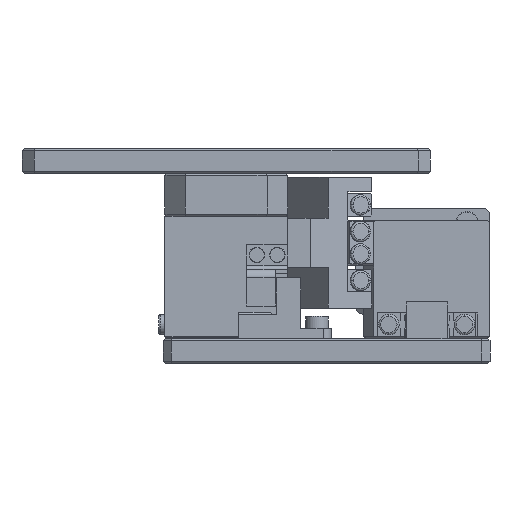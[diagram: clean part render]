
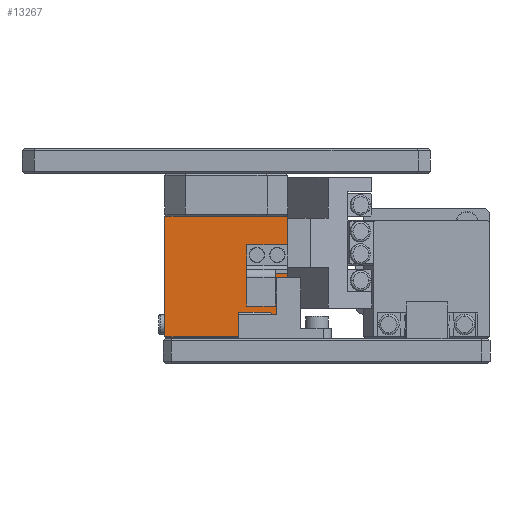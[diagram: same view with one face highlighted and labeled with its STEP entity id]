
A CAD part, front view. The second image highlights one B-rep face of the part: STEP entity #13267.
In plain terms, the highlighted planar face has unit normal (0, -1, 0).
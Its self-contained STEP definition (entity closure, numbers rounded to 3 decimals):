
#1931 = CARTESIAN_POINT ( 'NONE',  ( -1.346, -62.378, 142.5 ) ) ;
#2614 = VECTOR ( 'NONE', #15178, 1000. ) ;
#2859 = LINE ( 'NONE', #18258, #12176 ) ;
#4700 = LINE ( 'NONE', #31976, #7120 ) ;
#5528 = DIRECTION ( 'NONE',  ( 0., 1., 0. ) ) ;
#5627 = CARTESIAN_POINT ( 'NONE',  ( -11.346, -62.378, 126. ) ) ;
#5969 = EDGE_CURVE ( 'NONE', #33567, #43434, #46562, .T. ) ;
#6037 = DIRECTION ( 'NONE',  ( -1., 0., 0. ) ) ;
#6258 = ORIENTED_EDGE ( 'NONE', *, *, #28422, .F. ) ;
#7120 = VECTOR ( 'NONE', #7761, 1000. ) ;
#7761 = DIRECTION ( 'NONE',  ( 0., 0., 1. ) ) ;
#8535 = DIRECTION ( 'NONE',  ( -1., 0., 0. ) ) ;
#8633 = CARTESIAN_POINT ( 'NONE',  ( -1.346, -62.378, 121. ) ) ;
#8892 = EDGE_CURVE ( 'NONE', #41170, #10140, #44478, .T. ) ;
#8932 = VECTOR ( 'NONE', #17335, 1000. ) ;
#9856 = ORIENTED_EDGE ( 'NONE', *, *, #47057, .F. ) ;
#9857 = CARTESIAN_POINT ( 'NONE',  ( -31.346, -62.378, 103.5 ) ) ;
#10140 = VERTEX_POINT ( 'NONE', #21463 ) ;
#11921 = DIRECTION ( 'NONE',  ( -1., 0., 0. ) ) ;
#12176 = VECTOR ( 'NONE', #22811, 1000. ) ;
#12574 = ORIENTED_EDGE ( 'NONE', *, *, #5969, .T. ) ;
#13267 = ADVANCED_FACE ( 'NONE', ( #37345 ), #29275, .F. ) ;
#14588 = CARTESIAN_POINT ( 'NONE',  ( -31.346, -62.378, 133. ) ) ;
#15066 = EDGE_CURVE ( 'NONE', #27232, #24453, #23550, .T. ) ;
#15178 = DIRECTION ( 'NONE',  ( 0., 0., -1. ) ) ;
#15471 = LINE ( 'NONE', #41758, #20195 ) ;
#15841 = ORIENTED_EDGE ( 'NONE', *, *, #27954, .F. ) ;
#17151 = CARTESIAN_POINT ( 'NONE',  ( -1.346, -62.378, 103.5 ) ) ;
#17335 = DIRECTION ( 'NONE',  ( 0., 0., -1. ) ) ;
#18258 = CARTESIAN_POINT ( 'NONE',  ( -1.346, -62.378, 103.5 ) ) ;
#19256 = CARTESIAN_POINT ( 'NONE',  ( -1.346, -62.378, 132.5 ) ) ;
#19790 = LINE ( 'NONE', #35189, #36517 ) ;
#19973 = AXIS2_PLACEMENT_3D ( 'NONE', #17151, #5528, #6037 ) ;
#20091 = CARTESIAN_POINT ( 'NONE',  ( -1.346, -62.378, 103.5 ) ) ;
#20195 = VECTOR ( 'NONE', #23039, 1000. ) ;
#21005 = CARTESIAN_POINT ( 'NONE',  ( -11.346, -62.378, 121. ) ) ;
#21124 = LINE ( 'NONE', #1931, #8932 ) ;
#21405 = ORIENTED_EDGE ( 'NONE', *, *, #36268, .T. ) ;
#21463 = CARTESIAN_POINT ( 'NONE',  ( -31.346, -62.378, 103.5 ) ) ;
#22429 = ORIENTED_EDGE ( 'NONE', *, *, #8892, .T. ) ;
#22811 = DIRECTION ( 'NONE',  ( 0., 0., -1. ) ) ;
#22820 = EDGE_CURVE ( 'NONE', #24453, #10140, #15471, .T. ) ;
#23039 = DIRECTION ( 'NONE',  ( -1., 0., 0. ) ) ;
#23332 = DIRECTION ( 'NONE',  ( -1., 0., 0. ) ) ;
#23550 = LINE ( 'NONE', #43255, #27727 ) ;
#24453 = VERTEX_POINT ( 'NONE', #20091 ) ;
#25127 = EDGE_CURVE ( 'NONE', #43434, #36871, #4700, .T. ) ;
#25248 = DIRECTION ( 'NONE',  ( 0., 0., -1. ) ) ;
#27232 = VERTEX_POINT ( 'NONE', #47897 ) ;
#27727 = VECTOR ( 'NONE', #28323, 1000. ) ;
#27954 = EDGE_CURVE ( 'NONE', #42180, #32315, #21124, .T. ) ;
#28323 = DIRECTION ( 'NONE',  ( 0., 0., -1. ) ) ;
#28422 = EDGE_CURVE ( 'NONE', #36379, #42180, #2859, .T. ) ;
#29275 = PLANE ( 'NONE',  #19973 ) ;
#30337 = CARTESIAN_POINT ( 'NONE',  ( -1.346, -62.378, 142.5 ) ) ;
#31524 = LINE ( 'NONE', #46967, #43246 ) ;
#31976 = CARTESIAN_POINT ( 'NONE',  ( -11.346, -62.378, 120. ) ) ;
#32006 = CARTESIAN_POINT ( 'NONE',  ( -1.346, -62.378, 133. ) ) ;
#32195 = ORIENTED_EDGE ( 'NONE', *, *, #25127, .T. ) ;
#32315 = VERTEX_POINT ( 'NONE', #36028 ) ;
#33567 = VERTEX_POINT ( 'NONE', #34240 ) ;
#34240 = CARTESIAN_POINT ( 'NONE',  ( -1.346, -62.378, 121. ) ) ;
#35189 = CARTESIAN_POINT ( 'NONE',  ( -1.346, -62.378, 126. ) ) ;
#36028 = CARTESIAN_POINT ( 'NONE',  ( -1.346, -62.378, 126. ) ) ;
#36268 = EDGE_CURVE ( 'NONE', #36379, #41170, #31524, .T. ) ;
#36379 = VERTEX_POINT ( 'NONE', #32006 ) ;
#36517 = VECTOR ( 'NONE', #23332, 1000. ) ;
#36871 = VERTEX_POINT ( 'NONE', #5627 ) ;
#37345 = FACE_OUTER_BOUND ( 'NONE', #38622, .T. ) ;
#38398 = ORIENTED_EDGE ( 'NONE', *, *, #15066, .F. ) ;
#38622 = EDGE_LOOP ( 'NONE', ( #32195, #48963, #15841, #6258, #21405, #22429, #46707, #38398, #9856, #12574 ) ) ;
#39463 = VECTOR ( 'NONE', #25248, 1000. ) ;
#41170 = VERTEX_POINT ( 'NONE', #14588 ) ;
#41758 = CARTESIAN_POINT ( 'NONE',  ( -1.346, -62.378, 103.5 ) ) ;
#42180 = VERTEX_POINT ( 'NONE', #19256 ) ;
#43246 = VECTOR ( 'NONE', #8535, 1000. ) ;
#43255 = CARTESIAN_POINT ( 'NONE',  ( -1.346, -62.378, 103.5 ) ) ;
#43434 = VERTEX_POINT ( 'NONE', #21005 ) ;
#44447 = VECTOR ( 'NONE', #11921, 1000. ) ;
#44478 = LINE ( 'NONE', #9857, #39463 ) ;
#45546 = LINE ( 'NONE', #30337, #2614 ) ;
#46111 = EDGE_CURVE ( 'NONE', #32315, #36871, #19790, .T. ) ;
#46562 = LINE ( 'NONE', #8633, #44447 ) ;
#46707 = ORIENTED_EDGE ( 'NONE', *, *, #22820, .F. ) ;
#46967 = CARTESIAN_POINT ( 'NONE',  ( -1.346, -62.378, 133. ) ) ;
#47057 = EDGE_CURVE ( 'NONE', #33567, #27232, #45546, .T. ) ;
#47897 = CARTESIAN_POINT ( 'NONE',  ( -1.346, -62.378, 120.5 ) ) ;
#48963 = ORIENTED_EDGE ( 'NONE', *, *, #46111, .F. ) ;
